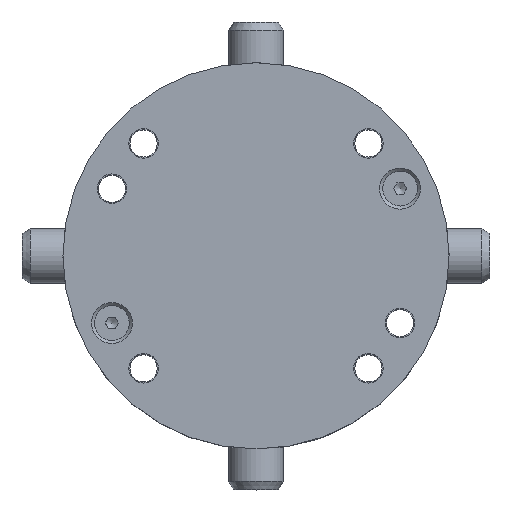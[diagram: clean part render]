
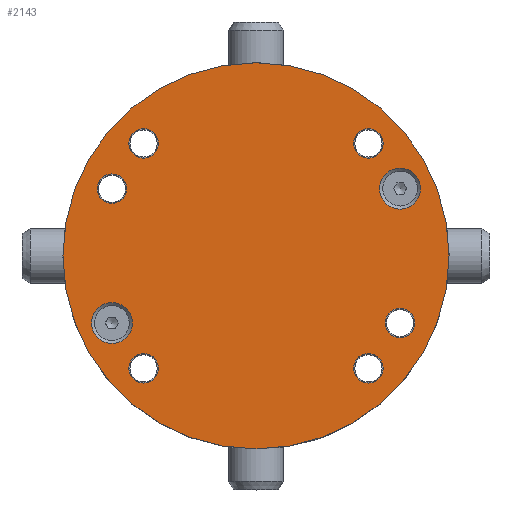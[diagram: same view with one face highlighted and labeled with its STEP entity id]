
A CAD part, top view. The second image highlights one B-rep face of the part: STEP entity #2143.
In plain terms, the highlighted planar face has unit normal (0, 0, 1).
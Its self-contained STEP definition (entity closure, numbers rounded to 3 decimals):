
#362=PLANE('',#2404);
#487=FACE_BOUND('',#921,.T.);
#488=FACE_BOUND('',#922,.T.);
#489=FACE_BOUND('',#923,.T.);
#490=FACE_BOUND('',#924,.T.);
#491=FACE_BOUND('',#925,.T.);
#492=FACE_BOUND('',#926,.T.);
#493=FACE_BOUND('',#927,.T.);
#494=FACE_BOUND('',#928,.T.);
#675=FACE_OUTER_BOUND('',#920,.T.);
#920=EDGE_LOOP('',(#1922));
#921=EDGE_LOOP('',(#1923));
#922=EDGE_LOOP('',(#1924));
#923=EDGE_LOOP('',(#1925));
#924=EDGE_LOOP('',(#1926));
#925=EDGE_LOOP('',(#1927));
#926=EDGE_LOOP('',(#1928));
#927=EDGE_LOOP('',(#1929));
#928=EDGE_LOOP('',(#1930));
#1036=CIRCLE('',#2373,4.5);
#1039=CIRCLE('',#2378,4.5);
#1042=CIRCLE('',#2383,3.25);
#1044=CIRCLE('',#2386,3.25);
#1046=CIRCLE('',#2389,3.25);
#1048=CIRCLE('',#2392,3.25);
#1050=CIRCLE('',#2395,3.25);
#1052=CIRCLE('',#2398,3.25);
#1054=CIRCLE('',#2401,42.5);
#1212=VERTEX_POINT('',#3960);
#1215=VERTEX_POINT('',#3968);
#1218=VERTEX_POINT('',#3976);
#1220=VERTEX_POINT('',#3981);
#1222=VERTEX_POINT('',#3986);
#1224=VERTEX_POINT('',#3991);
#1226=VERTEX_POINT('',#3996);
#1228=VERTEX_POINT('',#4001);
#1230=VERTEX_POINT('',#4006);
#1450=EDGE_CURVE('',#1212,#1212,#1036,.T.);
#1453=EDGE_CURVE('',#1215,#1215,#1039,.T.);
#1456=EDGE_CURVE('',#1218,#1218,#1042,.T.);
#1458=EDGE_CURVE('',#1220,#1220,#1044,.T.);
#1460=EDGE_CURVE('',#1222,#1222,#1046,.T.);
#1462=EDGE_CURVE('',#1224,#1224,#1048,.T.);
#1464=EDGE_CURVE('',#1226,#1226,#1050,.T.);
#1466=EDGE_CURVE('',#1228,#1228,#1052,.T.);
#1468=EDGE_CURVE('',#1230,#1230,#1054,.T.);
#1922=ORIENTED_EDGE('',*,*,#1468,.T.);
#1923=ORIENTED_EDGE('',*,*,#1450,.T.);
#1924=ORIENTED_EDGE('',*,*,#1453,.T.);
#1925=ORIENTED_EDGE('',*,*,#1456,.T.);
#1926=ORIENTED_EDGE('',*,*,#1458,.T.);
#1927=ORIENTED_EDGE('',*,*,#1460,.T.);
#1928=ORIENTED_EDGE('',*,*,#1462,.T.);
#1929=ORIENTED_EDGE('',*,*,#1464,.T.);
#1930=ORIENTED_EDGE('',*,*,#1466,.T.);
#2143=ADVANCED_FACE('',(#675,#487,#488,#489,#490,#491,#492,#493,#494),#362,
 .T.);
#2373=AXIS2_PLACEMENT_3D('',#3961,#2927,#2928);
#2378=AXIS2_PLACEMENT_3D('',#3969,#2937,#2938);
#2383=AXIS2_PLACEMENT_3D('',#3977,#2947,#2948);
#2386=AXIS2_PLACEMENT_3D('',#3982,#2953,#2954);
#2389=AXIS2_PLACEMENT_3D('',#3987,#2959,#2960);
#2392=AXIS2_PLACEMENT_3D('',#3992,#2965,#2966);
#2395=AXIS2_PLACEMENT_3D('',#3997,#2971,#2972);
#2398=AXIS2_PLACEMENT_3D('',#4002,#2977,#2978);
#2401=AXIS2_PLACEMENT_3D('',#4007,#2983,#2984);
#2404=AXIS2_PLACEMENT_3D('',#4011,#2989,#2990);
#2927=DIRECTION('center_axis',(0.,0.,-1.));
#2928=DIRECTION('ref_axis',(1.,0.,0.));
#2937=DIRECTION('center_axis',(0.,0.,-1.));
#2938=DIRECTION('ref_axis',(1.,0.,0.));
#2947=DIRECTION('center_axis',(0.,0.,-1.));
#2948=DIRECTION('ref_axis',(1.,0.,0.));
#2953=DIRECTION('center_axis',(0.,0.,-1.));
#2954=DIRECTION('ref_axis',(-1.,0.,0.));
#2959=DIRECTION('center_axis',(0.,0.,-1.));
#2960=DIRECTION('ref_axis',(0.,1.,0.));
#2965=DIRECTION('center_axis',(0.,0.,-1.));
#2966=DIRECTION('ref_axis',(1.,0.,0.));
#2971=DIRECTION('center_axis',(0.,0.,-1.));
#2972=DIRECTION('ref_axis',(0.,-1.,0.));
#2977=DIRECTION('center_axis',(0.,0.,-1.));
#2978=DIRECTION('ref_axis',(-1.,0.,0.));
#2983=DIRECTION('center_axis',(0.,0.,1.));
#2984=DIRECTION('ref_axis',(-1.,0.,0.));
#2989=DIRECTION('center_axis',(0.,0.,1.));
#2990=DIRECTION('ref_axis',(1.,0.,0.));
#3960=CARTESIAN_POINT('',(36.221,14.792,5.));
#3961=CARTESIAN_POINT('Origin',(31.721,14.792,5.));
#3968=CARTESIAN_POINT('',(-27.221,-14.792,5.));
#3969=CARTESIAN_POINT('Origin',(-31.721,-14.792,5.));
#3976=CARTESIAN_POINT('',(-34.971,14.792,5.));
#3977=CARTESIAN_POINT('Origin',(-31.721,14.792,5.));
#3981=CARTESIAN_POINT('',(34.971,-14.792,5.));
#3982=CARTESIAN_POINT('Origin',(31.721,-14.792,5.));
#3986=CARTESIAN_POINT('',(24.749,-27.999,5.));
#3987=CARTESIAN_POINT('Origin',(24.749,-24.749,5.));
#3991=CARTESIAN_POINT('',(-27.999,-24.749,5.));
#3992=CARTESIAN_POINT('Origin',(-24.749,-24.749,5.));
#3996=CARTESIAN_POINT('',(-24.749,27.999,5.));
#3997=CARTESIAN_POINT('Origin',(-24.749,24.749,5.));
#4001=CARTESIAN_POINT('',(27.999,24.749,5.));
#4002=CARTESIAN_POINT('Origin',(24.749,24.749,5.));
#4006=CARTESIAN_POINT('',(42.5,0.,5.));
#4007=CARTESIAN_POINT('Origin',(0.,0.,
5.));
#4011=CARTESIAN_POINT('Origin',(0.,0.,
5.));
